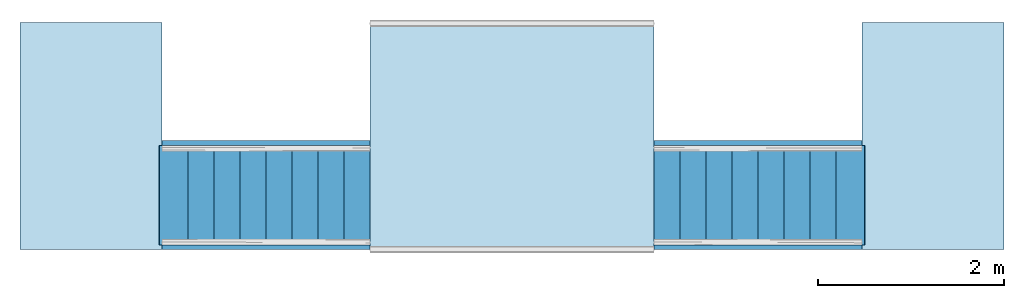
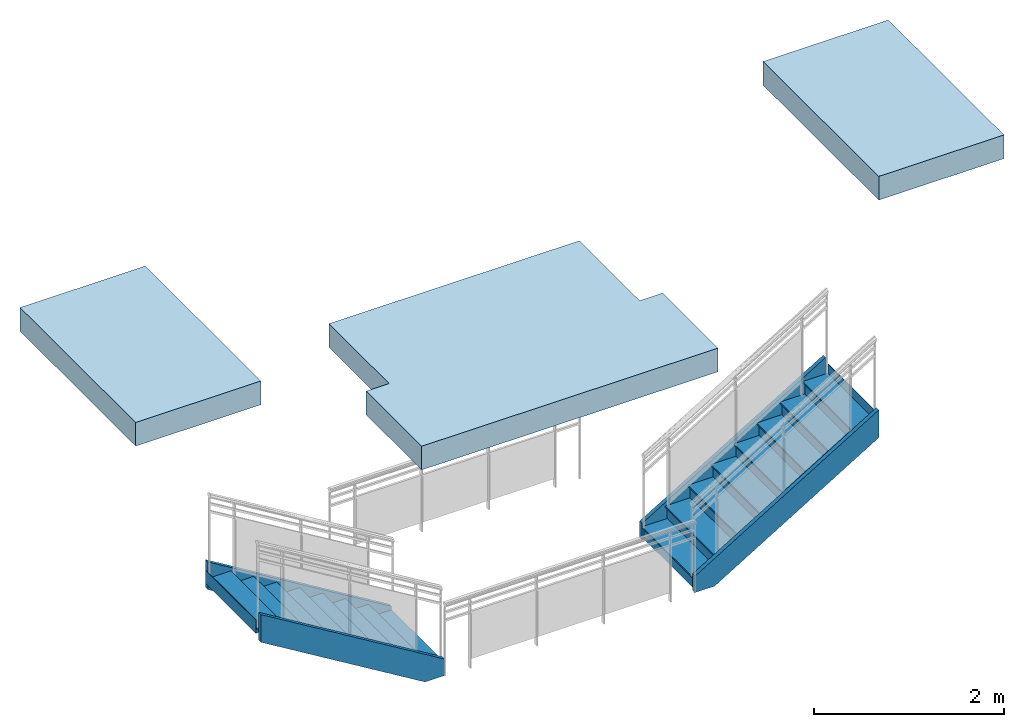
# One storey, part 1 of 4: 4 members, 3 slabs, 2 stair flights, 1 element without a shape of its own.
"""IFC2X3 building model written with IfcOpenShell, lengths in feet."""

from ifc_helpers import new_model, entity, si_unit, converted_unit, derived_unit, direction, frame, frame_2d, origin, origin_2d_with_axis, place, context, subcontext, project, spatial, polyline, rectangle, outline, extrude, material, layer, layer_set, layer_usage, type_object, element, aggregate, save


model = new_model("IFC2X3")

# Units and contexts
model_context = context("Model", 3, precision=0.0001, world=origin(), true_north=direction((6.12303176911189e-17, 1.0)))
body_context = subcontext(model_context, "Body", "Model", "MODEL_VIEW")
ifc_project = project(units=[converted_unit("LENGTHUNIT", "FOOT", entity("IfcRatioMeasure", 0.3048), si_unit("LENGTHUNIT", "METRE"), dimensions=[1, 0, 0, 0, 0, 0, 0]), converted_unit("AREAUNIT", "SQUARE FOOT", entity("IfcRatioMeasure", 0.09290304), si_unit("AREAUNIT", "SQUARE_METRE"), dimensions=[2, 0, 0, 0, 0, 0, 0]), converted_unit("VOLUMEUNIT", "CUBIC FOOT", entity("IfcRatioMeasure", 0.028316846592), si_unit("VOLUMEUNIT", "CUBIC_METRE"), dimensions=[3, 0, 0, 0, 0, 0, 0]), converted_unit("PLANEANGLEUNIT", "DEGREE", entity("IfcRatioMeasure", 0.0174532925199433), si_unit("PLANEANGLEUNIT", "RADIAN"), dimensions=[0, 0, 0, 0, 0, 0, 0]), si_unit("MASSUNIT", "GRAM", prefix="KILO"), derived_unit("MASSDENSITYUNIT", [(si_unit("MASSUNIT", "GRAM", prefix="KILO"), 1), (si_unit("LENGTHUNIT", "METRE"), -3)]), si_unit("TIMEUNIT", "SECOND"), si_unit("FREQUENCYUNIT", "HERTZ"), si_unit("THERMODYNAMICTEMPERATUREUNIT", "DEGREE_CELSIUS"), derived_unit("THERMALTRANSMITTANCEUNIT", [(si_unit("MASSUNIT", "GRAM", prefix="KILO"), 1), (si_unit("THERMODYNAMICTEMPERATUREUNIT", "KELVIN"), -1), (si_unit("TIMEUNIT", "SECOND"), -3)]), derived_unit("VOLUMETRICFLOWRATEUNIT", [(si_unit("LENGTHUNIT", "METRE"), 3), (si_unit("TIMEUNIT", "SECOND"), -1)]), si_unit("ELECTRICCURRENTUNIT", "AMPERE"), si_unit("ELECTRICVOLTAGEUNIT", "VOLT"), si_unit("POWERUNIT", "WATT"), si_unit("FORCEUNIT", "NEWTON"), si_unit("ILLUMINANCEUNIT", "LUX"), si_unit("LUMINOUSFLUXUNIT", "LUMEN"), si_unit("LUMINOUSINTENSITYUNIT", "CANDELA"), derived_unit("USERDEFINED", [(si_unit("MASSUNIT", "GRAM", prefix="KILO"), -1), (si_unit("LENGTHUNIT", "METRE"), -2), (si_unit("TIMEUNIT", "SECOND"), 3), (si_unit("LUMINOUSFLUXUNIT", "LUMEN"), 1)]), derived_unit("LINEARVELOCITYUNIT", [(si_unit("LENGTHUNIT", "METRE"), 1), (si_unit("TIMEUNIT", "SECOND"), -1)]), si_unit("PRESSUREUNIT", "PASCAL"), derived_unit("USERDEFINED", [(si_unit("LENGTHUNIT", "METRE"), -2), (si_unit("MASSUNIT", "GRAM", prefix="KILO"), 1), (si_unit("TIMEUNIT", "SECOND"), -2)])], contexts=[model_context])

# Site, building, storey
site_placement = place(None, origin())
site = spatial("IfcSite", under=ifc_project, at=site_placement, Name="Default", CompositionType="ELEMENT")
building_placement = place(site_placement, origin())
building = spatial("IfcBuilding", under=site, at=building_placement, CompositionType="ELEMENT")
storey_placement = place(building_placement, frame((0.0, 0.0, 45.0)))
storey = spatial("IfcBuildingStorey", under=building, at=storey_placement, Name="L 8", CompositionType="ELEMENT", Elevation=44.9999999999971)

# Stair, members
stair_placement = place(storey_placement, origin())
stair = element("IfcStair", 1, at=stair_placement, inside=storey, Name="Assembled Stair:Stair", ObjectType="Assembled Stair:7\" max riser 11\" tread", ShapeType="NOTDEFINED")
member_type = type_object("IfcMemberType", Name="Stringer:Stringer - 2\" Width", PredefinedType="STRINGER")
member_1_placement = place(stair_placement, origin())
member_1 = element("IfcMember", 2, at=member_1_placement, type_object=member_type, Name="Assembled Stair:Stair:191601 Stringer 1", ObjectType="Assembled Stair:7\" max riser 11\" tread", context=body_context, shape_type="SweptSolid", body=[
    extrude(outline(polyline([(-3.08955742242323, -1.96146201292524), (-2.30843697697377, -1.96146201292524), (4.24377591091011, 2.00957610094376), (4.24377591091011, 3.17889618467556), (-3.08955742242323, -1.26554825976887), (-3.08955742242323, -1.96146201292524)])), frame((-42.0813868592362, -15.3369745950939, 1.96146201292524), z_axis=(0.0, 1.0, 0.0), x_axis=(-1.0, 0.0, 0.0)), (0.0, 0.0, 1.0), 0.166666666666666),
])
member_2_placement = place(stair_placement, origin())
member_2 = element("IfcMember", 3, at=member_2_placement, type_object=member_type, Name="Assembled Stair:Stair:191601 Stringer 2", ObjectType="Assembled Stair:7\" max riser 11\" tread", context=body_context, shape_type="SweptSolid", body=[
    extrude(outline(polyline([(-3.08955742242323, -1.96146201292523), (-2.30843697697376, -1.96146201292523), (4.2437759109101, 2.00957610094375), (4.2437759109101, 3.17889618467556), (-3.08955742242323, -1.26554825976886), (-3.08955742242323, -1.96146201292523)])), frame((-42.0813868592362, -11.6703079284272, 1.96146201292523), z_axis=(0.0, 1.0, 0.0), x_axis=(-1.0, 0.0, 0.0)), (0.0, 0.0, 1.0), 0.166666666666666),
])
member_3_placement = place(stair_placement, origin())
member_3 = element("IfcMember", 4, at=member_3_placement, type_object=member_type, Name="Assembled Stair:Stair:191601 Stringer 3", ObjectType="Assembled Stair:7\" max riser 11\" tread", context=body_context, shape_type="SweptSolid", body=[
    extrude(outline(polyline([(-3.29811864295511, -0.51902878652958), (5.27689530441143, -0.519028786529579), (4.67083469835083, 0.480971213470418), (-2.99079942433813, 0.480971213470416), (-3.65881193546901, 0.0761151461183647), (-3.29811864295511, -0.51902878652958)])), frame((-25.9022720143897, -15.3369745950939, 1.96146201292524), z_axis=(0.0, 1.0, 0.0), x_axis=(0.855197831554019, 0.0, 0.518301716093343)), (0.0, 0.0, 1.0), 0.166666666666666),
])
member_4_placement = place(stair_placement, origin())
member_4 = element("IfcMember", 5, at=member_4_placement, type_object=member_type, Name="Assembled Stair:Stair:191601 Stringer 4", ObjectType="Assembled Stair:7\" max riser 11\" tread", context=body_context, shape_type="SweptSolid", body=[
    extrude(outline(polyline([(-3.29811864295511, -0.519028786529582), (5.27689530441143, -0.519028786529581), (4.67083469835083, 0.480971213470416), (-2.99079942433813, 0.480971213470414), (-3.65881193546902, 0.0761151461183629), (-3.29811864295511, -0.519028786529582)])), frame((-25.9022720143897, -11.6703079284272, 1.96146201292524), z_axis=(0.0, 1.0, 0.0), x_axis=(0.855197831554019, 0.0, 0.518301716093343)), (0.0, 0.0, 1.0), 0.166666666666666),
])

# Slabs
ifc_material = material(Name="Concrete, Cast-in-Place gray")
ifc_layer = layer(ifc_material, 1.0)
ifc_layer_set = layer_set([ifc_layer], Name="Floor:Generic - 12\"")
ifc_layer_usage_1 = layer_usage(ifc_layer_set, "AXIS3", "POSITIVE", 0.0)
slab_1_placement = place(storey_placement, origin())
element("IfcSlab", 6, at=slab_1_placement, inside=storey, material=ifc_layer_usage_1, Name="Floor:Generic - 12\"", ObjectType="Floor:Generic - 12\"", PredefinedType="FLOOR", context=body_context, shape_type="SweptSolid", body=[
    extrude(outline(polyline([(-3.91666666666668, -5.91666666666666), (-0.0833333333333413, -5.91666666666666), (-0.0833333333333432, -5.0), (4.08333333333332, -5.0), (4.08333333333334, 5.0), (-0.0833333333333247, 5.0), (-0.0833333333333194, 5.91666666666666), (-3.91666666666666, 5.91666666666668), (-3.91666666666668, -5.91666666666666)])), frame((-33.9918294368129, -11.4203079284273, 10.0), z_axis=(0.0, 0.0, -1.0), x_axis=(0.0, 1.0, 0.0)), (0.0, 0.0, 1.0), 1.0),
])
ifc_layer_usage_2 = layer_usage(ifc_layer_set, "AXIS3", "POSITIVE", 0.0)
slab_2_placement = place(storey_placement, origin())
element("IfcSlab", 7, at=slab_2_placement, inside=storey, material=ifc_layer_usage_2, Name="Floor:Generic - 12\"", ObjectType="Floor:Generic - 12\"", PredefinedType="FLOOR", context=body_context, shape_type="SweptSolid", body=[
    extrude(rectangle(XDim=5.0, YDim=8.0, at=frame_2d((-1.77635683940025e-15, 0.0), x_axis=(1.0, 0.0))), frame((-19.1584961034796, -11.3369745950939, 15.0), z_axis=(0.0, 0.0, -1.0), x_axis=(1.0, 0.0, 0.0)), (0.0, 0.0, 1.0), 1.0),
])
ifc_layer_usage_3 = layer_usage(ifc_layer_set, "AXIS3", "POSITIVE", 0.0)
slab_3_placement = place(storey_placement, origin())
element("IfcSlab", 8, at=slab_3_placement, inside=storey, material=ifc_layer_usage_3, Name="Floor:Generic - 12\"", ObjectType="Floor:Generic - 12\"", PredefinedType="FLOOR", context=body_context, shape_type="SweptSolid", body=[
    extrude(rectangle(XDim=8.0, YDim=4.99999999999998, at=frame_2d((0.0, 3.5527136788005e-15), x_axis=(1.0, 0.0))), frame((-48.8251627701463, -11.3369745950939, 15.0), z_axis=(0.0, 0.0, -1.0), x_axis=(0.0, 1.0, 0.0)), (0.0, 0.0, 1.0), 1.0),
])

# Stair flight
stair_flight_1_placement = place(stair_placement, origin())
stair_flight_1 = element("IfcStairFlight", 9, at=stair_flight_1_placement, Name="Assembled Stair:Stair:191601 Run 1", ObjectType="Assembled Stair:7\" max riser 11\" tread", NumberOfRiser=9, NumberOfTreads=8, RiserHeight=0.555555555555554, TreadLength=0.916666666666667, context=body_context, shape_type="SweptSolid", body=[
    extrude(outline(polyline([(-0.0902777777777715, -0.361111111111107), (-0.0277777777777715, -0.361111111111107), (0.0555555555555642, -0.277777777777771), (0.0763888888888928, -0.277777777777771), (0.0763888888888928, 0.638888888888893), (-0.0902777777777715, 0.638888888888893), (-0.0902777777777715, -0.361111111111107)])), frame((-39.352940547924, -15.1703079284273, 0.465277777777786), z_axis=(0.0, 1.0, 0.0), x_axis=(0.0, 0.0, -1.0)), (0.0, 0.0, 1.0), 3.5),
    extrude(rectangle(XDim=3.5, YDim=0.0208333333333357, at=frame_2d((0.0, -3.5527136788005e-15), x_axis=(1.0, 0.0))), frame((-39.0855794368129, -13.4203079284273, 0.0), z_axis=(0.0, 0.0, 1.0), x_axis=(0.0, -1.0, 0.0)), (0.0, 0.0, 1.0), 0.388888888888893),
    extrude(rectangle(XDim=3.5, YDim=0.0208333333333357, at=frame_2d((0.0, 3.5527136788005e-15), x_axis=(1.0, 0.0))), frame((-40.0022461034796, -13.4203079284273, 0.388888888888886), z_axis=(0.0, 0.0, 1.0), x_axis=(0.0, -1.0, 0.0)), (0.0, 0.0, 1.0), 0.555555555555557),
    extrude(outline(polyline([(-0.0902777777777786, -0.361111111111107), (-0.0277777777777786, -0.361111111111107), (0.0555555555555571, -0.277777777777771), (0.0763888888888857, -0.277777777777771), (0.0763888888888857, 0.638888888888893), (-0.0902777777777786, 0.638888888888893), (-0.0902777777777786, -0.361111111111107)])), frame((-40.2696072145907, -15.1703079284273, 1.02083333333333), z_axis=(0.0, 1.0, 0.0), x_axis=(0.0, 0.0, -1.0)), (0.0, 0.0, 1.0), 3.5),
    extrude(rectangle(XDim=3.5, YDim=0.0208333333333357, at=frame_2d((0.0, -3.5527136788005e-15), x_axis=(1.0, 0.0))), frame((-40.9189127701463, -13.4203079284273, 0.944444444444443), z_axis=(0.0, 0.0, 1.0), x_axis=(0.0, -1.0, 0.0)), (0.0, 0.0, 1.0), 0.555555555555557),
    extrude(outline(polyline([(-0.0902777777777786, -0.361111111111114), (-0.0277777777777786, -0.361111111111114), (0.0555555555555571, -0.277777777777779), (0.0763888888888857, -0.277777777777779), (0.0763888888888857, 0.638888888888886), (-0.0902777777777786, 0.638888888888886), (-0.0902777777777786, -0.361111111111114)])), frame((-41.1862738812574, -15.1703079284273, 1.57638888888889), z_axis=(0.0, 1.0, 0.0), x_axis=(0.0, 0.0, -1.0)), (0.0, 0.0, 1.0), 3.5),
    extrude(rectangle(XDim=3.5, YDim=0.0208333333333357, at=frame_2d((0.0, -3.5527136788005e-15), x_axis=(1.0, 0.0))), frame((-41.8355794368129, -13.4203079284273, 1.49999999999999), z_axis=(0.0, 0.0, 1.0), x_axis=(0.0, -1.0, 0.0)), (0.0, 0.0, 1.0), 0.555555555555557),
    extrude(outline(polyline([(-0.0902777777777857, -0.361111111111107), (-0.0277777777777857, -0.361111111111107), (0.05555555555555, -0.277777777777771), (0.0763888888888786, -0.277777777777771), (0.0763888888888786, 0.638888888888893), (-0.0902777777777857, 0.638888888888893), (-0.0902777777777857, -0.361111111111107)])), frame((-42.102940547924, -15.1703079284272, 2.13194444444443), z_axis=(0.0, 1.0, 0.0), x_axis=(0.0, 0.0, -1.0)), (0.0, 0.0, 1.0), 3.5),
    extrude(rectangle(XDim=3.5, YDim=0.0208333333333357, at=frame_2d((0.0, 3.5527136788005e-15), x_axis=(1.0, 0.0))), frame((-42.7522461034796, -13.4203079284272, 2.05555555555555), z_axis=(0.0, 0.0, 1.0), x_axis=(0.0, -1.0, 0.0)), (0.0, 0.0, 1.0), 0.555555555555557),
    extrude(outline(polyline([(-0.0902777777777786, -0.361111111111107), (-0.0277777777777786, -0.361111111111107), (0.0555555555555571, -0.277777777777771), (0.0763888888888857, -0.277777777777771), (0.0763888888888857, 0.638888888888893), (-0.0902777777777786, 0.638888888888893), (-0.0902777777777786, -0.361111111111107)])), frame((-43.0196072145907, -15.1703079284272, 2.68749999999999), z_axis=(0.0, 1.0, 0.0), x_axis=(0.0, 0.0, -1.0)), (0.0, 0.0, 1.0), 3.5),
    extrude(rectangle(XDim=3.5, YDim=0.0208333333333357, at=frame_2d((0.0, -3.5527136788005e-15), x_axis=(1.0, 0.0))), frame((-43.6689127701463, -13.4203079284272, 2.6111111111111), z_axis=(0.0, 0.0, 1.0), x_axis=(0.0, -1.0, 0.0)), (0.0, 0.0, 1.0), 0.555555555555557),
    extrude(outline(polyline([(-0.0902777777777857, -0.361111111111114), (-0.0277777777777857, -0.361111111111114), (0.05555555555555, -0.277777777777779), (0.0763888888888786, -0.277777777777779), (0.0763888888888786, 0.638888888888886), (-0.0902777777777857, 0.638888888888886), (-0.0902777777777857, -0.361111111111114)])), frame((-43.9362738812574, -15.1703079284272, 3.24305555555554), z_axis=(0.0, 1.0, 0.0), x_axis=(0.0, 0.0, -1.0)), (0.0, 0.0, 1.0), 3.5),
    extrude(rectangle(XDim=3.5, YDim=0.0208333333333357, at=frame_2d((0.0, -3.5527136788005e-15), x_axis=(1.0, 0.0))), frame((-44.5855794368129, -13.4203079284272, 3.16666666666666), z_axis=(0.0, 0.0, 1.0), x_axis=(0.0, -1.0, 0.0)), (0.0, 0.0, 1.0), 0.555555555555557),
    extrude(outline(polyline([(-0.0902777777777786, -0.361111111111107), (-0.0277777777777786, -0.361111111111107), (0.0555555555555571, -0.277777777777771), (0.0763888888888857, -0.277777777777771), (0.0763888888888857, 0.638888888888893), (-0.0902777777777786, 0.638888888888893), (-0.0902777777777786, -0.361111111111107)])), frame((-44.852940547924, -15.1703079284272, 3.7986111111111), z_axis=(0.0, 1.0, 0.0), x_axis=(0.0, 0.0, -1.0)), (0.0, 0.0, 1.0), 3.5),
    extrude(rectangle(XDim=3.5, YDim=0.0208333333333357, at=frame_2d((0.0, 3.5527136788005e-15), x_axis=(1.0, 0.0))), frame((-45.5022461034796, -13.4203079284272, 3.72222222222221), z_axis=(0.0, 0.0, 1.0), x_axis=(0.0, -1.0, 0.0)), (0.0, 0.0, 1.0), 0.555555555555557),
    extrude(rectangle(XDim=3.5, YDim=0.0208333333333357, at=origin_2d_with_axis()), frame((-46.4189127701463, -13.4203079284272, 4.27777777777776), z_axis=(0.0, 0.0, 1.0), x_axis=(0.0, -1.0, 0.0)), (0.0, 0.0, 1.0), 0.55555555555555),
    extrude(outline(polyline([(-0.0902777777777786, -0.361111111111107), (-0.0277777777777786, -0.361111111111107), (0.0555555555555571, -0.277777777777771), (0.0763888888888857, -0.277777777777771), (0.0763888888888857, 0.638888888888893), (-0.0902777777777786, 0.638888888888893), (-0.0902777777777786, -0.361111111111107)])), frame((-45.7696072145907, -15.1703079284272, 4.35416666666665), z_axis=(0.0, 1.0, 0.0), x_axis=(0.0, 0.0, -1.0)), (0.0, 0.0, 1.0), 3.5),
])

stair_flight_2_placement = place(stair_placement, origin())
stair_flight_2 = element("IfcStairFlight", 10, at=stair_flight_2_placement, Name="Assembled Stair:Stair:191601 Run 2", ObjectType="Assembled Stair:7\" max riser 11\" tread", NumberOfRiser=9, NumberOfTreads=8, RiserHeight=0.555555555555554, TreadLength=0.916666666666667, context=body_context, shape_type="SweptSolid", body=[
    extrude(outline(polyline([(-0.0902777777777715, -0.638888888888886), (0.0763888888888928, -0.638888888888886), (0.0763888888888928, 0.277777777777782), (0.0555555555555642, 0.277777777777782), (-0.0277777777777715, 0.361111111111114), (-0.0902777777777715, 0.361111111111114), (-0.0902777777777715, -0.638888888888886)])), frame((-28.6307183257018, -15.1703079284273, 0.465277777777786), z_axis=(0.0, 1.0, 0.0), x_axis=(0.0, 0.0, -1.0)), (0.0, 0.0, 1.0), 3.5),
    extrude(rectangle(XDim=3.5, YDim=0.0208333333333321, at=frame_2d((0.0, 1.77635683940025e-15), x_axis=(1.0, 0.0))), frame((-28.8980794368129, -13.4203079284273, 0.0), z_axis=(0.0, 0.0, 1.0), x_axis=(0.0, 1.0, 0.0)), (0.0, 0.0, 1.0), 0.388888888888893),
    extrude(rectangle(XDim=3.5, YDim=0.0208333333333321, at=frame_2d((0.0, -1.77635683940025e-15), x_axis=(1.0, 0.0))), frame((-27.9814127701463, -13.4203079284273, 0.388888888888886), z_axis=(0.0, 0.0, 1.0), x_axis=(0.0, 1.0, 0.0)), (0.0, 0.0, 1.0), 0.555555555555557),
    extrude(outline(polyline([(-0.0902777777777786, -0.638888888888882), (0.0763888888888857, -0.638888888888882), (0.0763888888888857, 0.277777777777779), (0.0555555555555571, 0.277777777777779), (-0.0277777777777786, 0.361111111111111), (-0.0902777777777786, 0.361111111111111), (-0.0902777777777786, -0.638888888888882)])), frame((-27.7140516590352, -15.1703079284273, 1.02083333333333), z_axis=(0.0, 1.0, 0.0), x_axis=(0.0, 0.0, -1.0)), (0.0, 0.0, 1.0), 3.5),
    extrude(rectangle(XDim=3.5, YDim=0.0208333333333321, at=frame_2d((0.0, 1.77635683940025e-15), x_axis=(1.0, 0.0))), frame((-27.0647461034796, -13.4203079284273, 0.944444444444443), z_axis=(0.0, 0.0, 1.0), x_axis=(0.0, 1.0, 0.0)), (0.0, 0.0, 1.0), 0.555555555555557),
    extrude(outline(polyline([(-0.0902777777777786, -0.638888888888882), (0.0763888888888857, -0.638888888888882), (0.0763888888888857, 0.277777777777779), (0.0555555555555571, 0.277777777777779), (-0.0277777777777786, 0.361111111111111), (-0.0902777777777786, 0.361111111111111), (-0.0902777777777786, -0.638888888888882)])), frame((-26.7973849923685, -15.1703079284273, 1.57638888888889), z_axis=(0.0, 1.0, 0.0), x_axis=(0.0, 0.0, -1.0)), (0.0, 0.0, 1.0), 3.5),
    extrude(rectangle(XDim=3.5, YDim=0.0208333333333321, at=frame_2d((0.0, 1.77635683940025e-15), x_axis=(1.0, 0.0))), frame((-26.1480794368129, -13.4203079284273, 1.49999999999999), z_axis=(0.0, 0.0, 1.0), x_axis=(0.0, 1.0, 0.0)), (0.0, 0.0, 1.0), 0.555555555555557),
    extrude(outline(polyline([(-0.0902777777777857, -0.638888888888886), (0.0763888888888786, -0.638888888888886), (0.0763888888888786, 0.277777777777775), (0.05555555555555, 0.277777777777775), (-0.0277777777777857, 0.361111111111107), (-0.0902777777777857, 0.361111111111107), (-0.0902777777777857, -0.638888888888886)])), frame((-25.8807183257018, -15.1703079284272, 2.13194444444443), z_axis=(0.0, 1.0, 0.0), x_axis=(0.0, 0.0, -1.0)), (0.0, 0.0, 1.0), 3.5),
    extrude(rectangle(XDim=3.5, YDim=0.0208333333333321, at=frame_2d((0.0, -1.77635683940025e-15), x_axis=(1.0, 0.0))), frame((-25.2314127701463, -13.4203079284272, 2.05555555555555), z_axis=(0.0, 0.0, 1.0), x_axis=(0.0, 1.0, 0.0)), (0.0, 0.0, 1.0), 0.555555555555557),
    extrude(outline(polyline([(-0.0902777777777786, -0.638888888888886), (0.0763888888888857, -0.638888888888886), (0.0763888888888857, 0.277777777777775), (0.0555555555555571, 0.277777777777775), (-0.0277777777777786, 0.361111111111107), (-0.0902777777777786, 0.361111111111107), (-0.0902777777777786, -0.638888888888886)])), frame((-24.9640516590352, -15.1703079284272, 2.68749999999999), z_axis=(0.0, 1.0, 0.0), x_axis=(0.0, 0.0, -1.0)), (0.0, 0.0, 1.0), 3.5),
    extrude(rectangle(XDim=3.5, YDim=0.0208333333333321, at=frame_2d((0.0, 1.77635683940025e-15), x_axis=(1.0, 0.0))), frame((-24.3147461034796, -13.4203079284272, 2.6111111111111), z_axis=(0.0, 0.0, 1.0), x_axis=(0.0, 1.0, 0.0)), (0.0, 0.0, 1.0), 0.555555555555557),
    extrude(outline(polyline([(-0.0902777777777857, -0.638888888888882), (0.0763888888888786, -0.638888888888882), (0.0763888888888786, 0.277777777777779), (0.05555555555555, 0.277777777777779), (-0.0277777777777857, 0.361111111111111), (-0.0902777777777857, 0.361111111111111), (-0.0902777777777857, -0.638888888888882)])), frame((-24.0473849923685, -15.1703079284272, 3.24305555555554), z_axis=(0.0, 1.0, 0.0), x_axis=(0.0, 0.0, -1.0)), (0.0, 0.0, 1.0), 3.5),
    extrude(rectangle(XDim=3.5, YDim=0.0208333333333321, at=frame_2d((0.0, -1.77635683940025e-15), x_axis=(1.0, 0.0))), frame((-23.3980794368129, -13.4203079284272, 3.16666666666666), z_axis=(0.0, 0.0, 1.0), x_axis=(0.0, 1.0, 0.0)), (0.0, 0.0, 1.0), 0.555555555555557),
    extrude(outline(polyline([(-0.0902777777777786, -0.638888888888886), (0.0763888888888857, -0.638888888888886), (0.0763888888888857, 0.277777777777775), (0.0555555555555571, 0.277777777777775), (-0.0277777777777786, 0.361111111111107), (-0.0902777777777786, 0.361111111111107), (-0.0902777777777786, -0.638888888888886)])), frame((-23.1307183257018, -15.1703079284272, 3.7986111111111), z_axis=(0.0, 1.0, 0.0), x_axis=(0.0, 0.0, -1.0)), (0.0, 0.0, 1.0), 3.5),
    extrude(rectangle(XDim=3.5, YDim=0.0208333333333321, at=frame_2d((0.0, -1.77635683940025e-15), x_axis=(1.0, 0.0))), frame((-22.4814127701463, -13.4203079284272, 3.72222222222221), z_axis=(0.0, 0.0, 1.0), x_axis=(0.0, 1.0, 0.0)), (0.0, 0.0, 1.0), 0.555555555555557),
    extrude(rectangle(XDim=3.5, YDim=0.0208333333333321, at=frame_2d((0.0, 1.77635683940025e-15), x_axis=(1.0, 0.0))), frame((-21.5647461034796, -13.4203079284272, 4.27777777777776), z_axis=(0.0, 0.0, 1.0), x_axis=(0.0, 1.0, 0.0)), (0.0, 0.0, 1.0), 0.55555555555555),
    extrude(outline(polyline([(-0.0902777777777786, -0.638888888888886), (0.0763888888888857, -0.638888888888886), (0.0763888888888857, 0.277777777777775), (0.0555555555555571, 0.277777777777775), (-0.0277777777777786, 0.361111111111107), (-0.0902777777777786, 0.361111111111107), (-0.0902777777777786, -0.638888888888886)])), frame((-22.2140516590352, -15.1703079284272, 4.35416666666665), z_axis=(0.0, 1.0, 0.0), x_axis=(0.0, 0.0, -1.0)), (0.0, 0.0, 1.0), 3.5),
])

aggregate(stair, [stair_flight_1, stair_flight_2, member_1, member_2, member_3, member_4])

save(model, "model.ifc")
